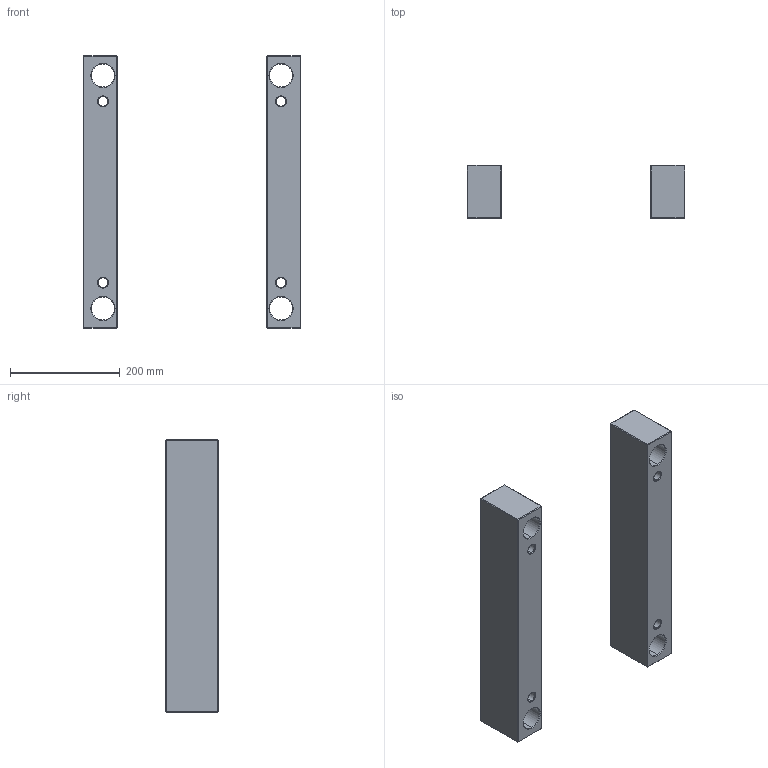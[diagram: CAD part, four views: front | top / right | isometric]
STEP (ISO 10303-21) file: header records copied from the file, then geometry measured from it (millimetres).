
FILE_DESCRIPTION (( 'STEP AP214' ), '1' );
FILE_NAME ('ESP-EU-396X496x96.STEP', '2020-04-16T11:42:49', ( 'August' ), ( '' ), 'SwSTEP 2.0', 'SolidWorks 2018', '' );
FILE_SCHEMA (( 'AUTOMOTIVE_DESIGN' ));
Length unit declared in the file: millimetre
Products named in the file (1): ESP-EU-396X496x96
Bounding box: 396 x 96 x 496 mm (x, y, z)
Volume: 5271282 mm3; surface area: 392609.6 mm2
Topology: 2 solids, 2 shells, 100 faces, 208 edges, 112 vertices
Faces by surface type: plane 52, cone 32, cylinder 16
Entity records: 2631 total; most frequent: DIRECTION 474, CARTESIAN_POINT 421, ORIENTED_EDGE 416, EDGE_CURVE 208, AXIS2_PLACEMENT_3D 165, VECTOR 144, LINE 144, EDGE_LOOP 116
